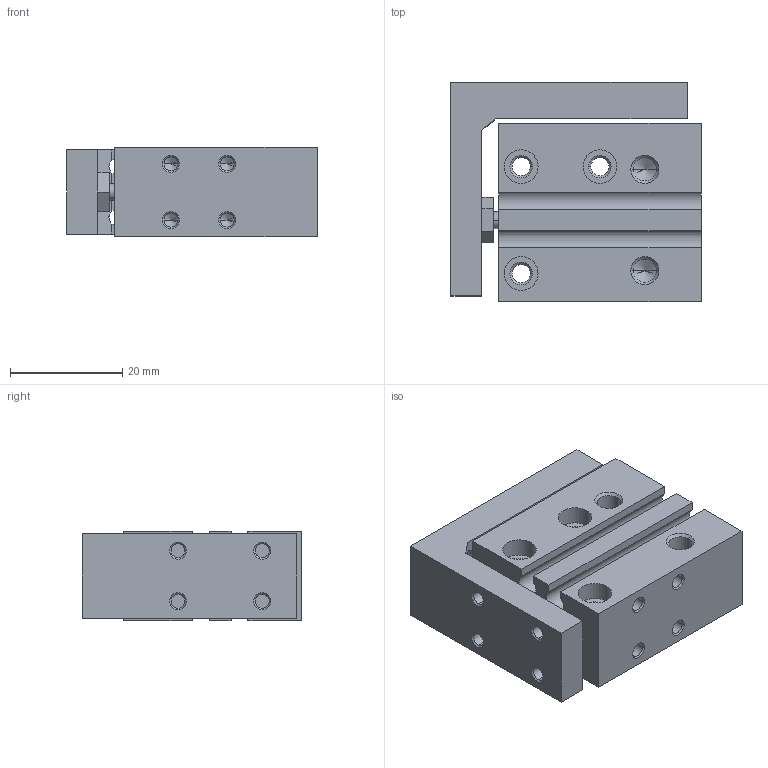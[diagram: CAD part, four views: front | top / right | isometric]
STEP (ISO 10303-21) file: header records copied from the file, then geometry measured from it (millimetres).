
FILE_DESCRIPTION (( 'STEP AP203' ), '1' );
FILE_NAME ('CXH6-5.STEP', '2020-04-16T17:59:40', ( '' ), ( '' ), 'SwSTEP 2.0', 'SolidWorks 2019', '' );
FILE_SCHEMA (( 'CONFIG_CONTROL_DESIGN' ));
Length unit declared in the file: millimetre
Products named in the file (1): CXH6-5
Bounding box: 44.5 x 39 x 16 mm (x, y, z)
Volume: 20840.5 mm3; surface area: 11457 mm2
Topology: 2 solids, 2 shells, 208 faces, 495 edges, 286 vertices
Faces by surface type: cone 88, cylinder 76, plane 44
Entity records: 6004 total; most frequent: DIRECTION 1093, CARTESIAN_POINT 1080, ORIENTED_EDGE 934, EDGE_CURVE 467, AXIS2_PLACEMENT_3D 421, VERTEX_POINT 286, EDGE_LOOP 253, LINE 251
